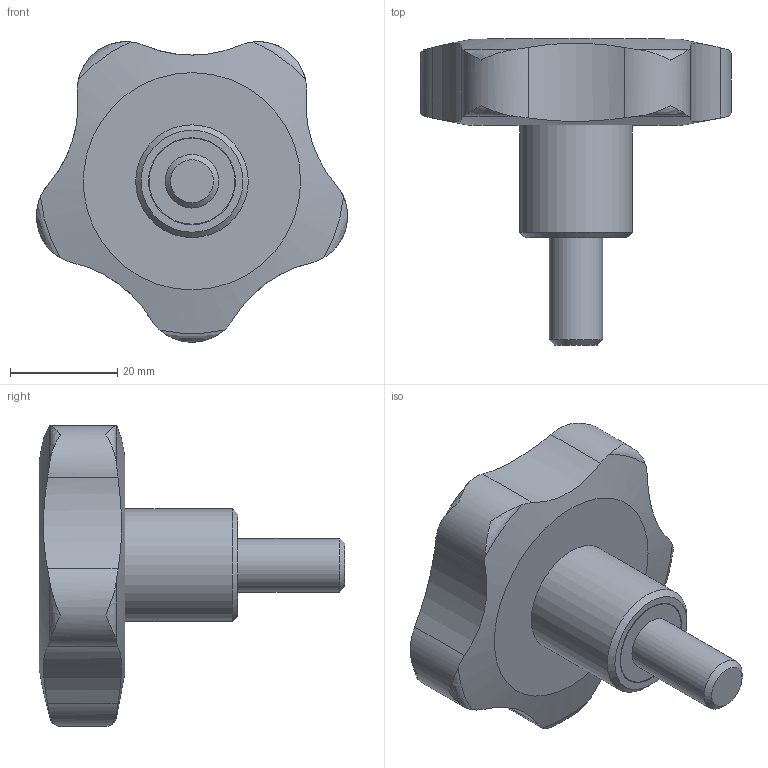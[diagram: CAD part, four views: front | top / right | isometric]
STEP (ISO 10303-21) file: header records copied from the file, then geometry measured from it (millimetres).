
FILE_DESCRIPTION( ( 'STEP AP203' ), '1' );
FILE_NAME( 'C:/Temp/Ganter_Step_05_03_2020/data/2_2/gn_5337_4/gn_5337_4_s/Star knob GN 5337.4-60-M10-20.stp', '2020-03-05T12:09:50', ( 'License CC BY-ND 4.0' ), ( 'CADENAS' ), ' ', 'PARTsolutions', ' ' );
FILE_SCHEMA( ( 'CONFIG_CONTROL_DESIGN' ) );
Length unit declared in the file: millimetre
Products named in the file (1): _Star knob GN 5337.4-60-M10-20
Bounding box: 57.94 x 57 x 55.99 mm (x, y, z)
Volume: 41992.2 mm3; surface area: 8859.8 mm2
Topology: 1 solids, 1 shells, 34 faces, 90 edges, 61 vertices
Faces by surface type: cylinder 14, torus 10, plane 5, cone 3, bspline 1, sphere 1
Full cylindrical faces by diameter (mm): 10 x1, 16 x1, 16.2 x1, 21 x1
Entity records: 1493 total; most frequent: CARTESIAN_POINT 730, ORIENTED_EDGE 154, DIRECTION 122, EDGE_CURVE 77, VERTEX_POINT 58, AXIS2_PLACEMENT_3D 56, EDGE_LOOP 46, B_SPLINE_CURVE_WITH_KNOTS 45
